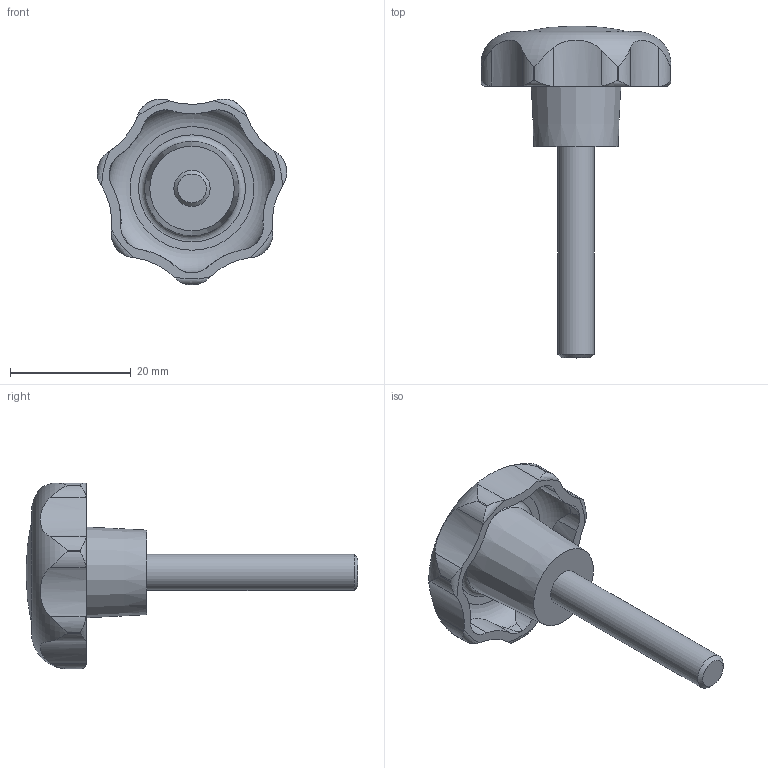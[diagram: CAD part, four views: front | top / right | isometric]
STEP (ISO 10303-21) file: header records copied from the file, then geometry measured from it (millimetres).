
FILE_DESCRIPTION( ( 'STEP AP203' ), '1' );
FILE_NAME( 'C:/Temp/Ganter_Step_05_03_2020/data/2_2/gn_6336_4/gn_6336_4_st/Star knob GN 6336.4-ST-32-M6-35.stp', '2020-03-05T12:07:22', ( 'License CC BY-ND 4.0' ), ( 'CADENAS' ), ' ', 'PARTsolutions', ' ' );
FILE_SCHEMA( ( 'CONFIG_CONTROL_DESIGN' ) );
Length unit declared in the file: millimetre
Products named in the file (1): _Star knob GN 6336.4-ST-32-M6-35
Bounding box: 31.4 x 55 x 30.81 mm (x, y, z)
Volume: 6791.5 mm3; surface area: 3835.9 mm2
Topology: 1 solids, 1 shells, 74 faces, 209 edges, 138 vertices
Faces by surface type: cylinder 50, torus 10, cone 10, plane 3, sphere 1
Full cylindrical faces by diameter (mm): 6 x1
Entity records: 3221 total; most frequent: CARTESIAN_POINT 1406, ORIENTED_EDGE 394, DIRECTION 336, EDGE_CURVE 197, AXIS2_PLACEMENT_3D 147, VERTEX_POINT 136, EDGE_LOOP 83, B_SPLINE_CURVE_WITH_KNOTS 83
